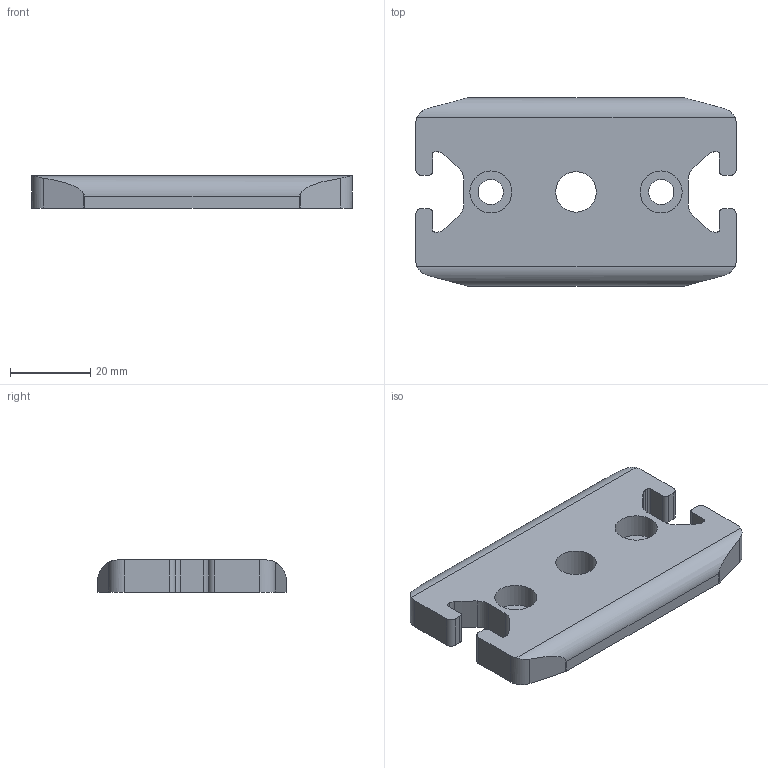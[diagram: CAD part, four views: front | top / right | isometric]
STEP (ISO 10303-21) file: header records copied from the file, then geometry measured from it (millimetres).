
FILE_DESCRIPTION((''),'2;1');
FILE_NAME('E:\catalogue and flyer\Profile catalogue 2015\Accessories ACC info\Accessories ACC step file 31Mar16\ACC-ECEP8-8047M12.stp','2016-03-31T14:52:13',('h029'),(''),'Autodesk Inventor 11','Autodesk Inventor 11','');
FILE_SCHEMA(('AUTOMOTIVE_DESIGN { 1 0 10303 214 1 1 1 1 }'));
Length unit declared in the file: millimetre
Products named in the file (1): ACC-ECEP8-8047M12
Bounding box: 80 x 47 x 8 mm (x, y, z)
Volume: 24238.2 mm3; surface area: 9347 mm2
Topology: 1 solids, 1 shells, 74 faces, 211 edges, 141 vertices
Faces by surface type: cylinder 35, plane 32, bspline 7
Entity records: 2561 total; most frequent: CARTESIAN_POINT 580, DIRECTION 413, ORIENTED_EDGE 410, EDGE_CURVE 205, AXIS2_PLACEMENT_3D 149, VERTEX_POINT 140, VECTOR 115, LINE 115
